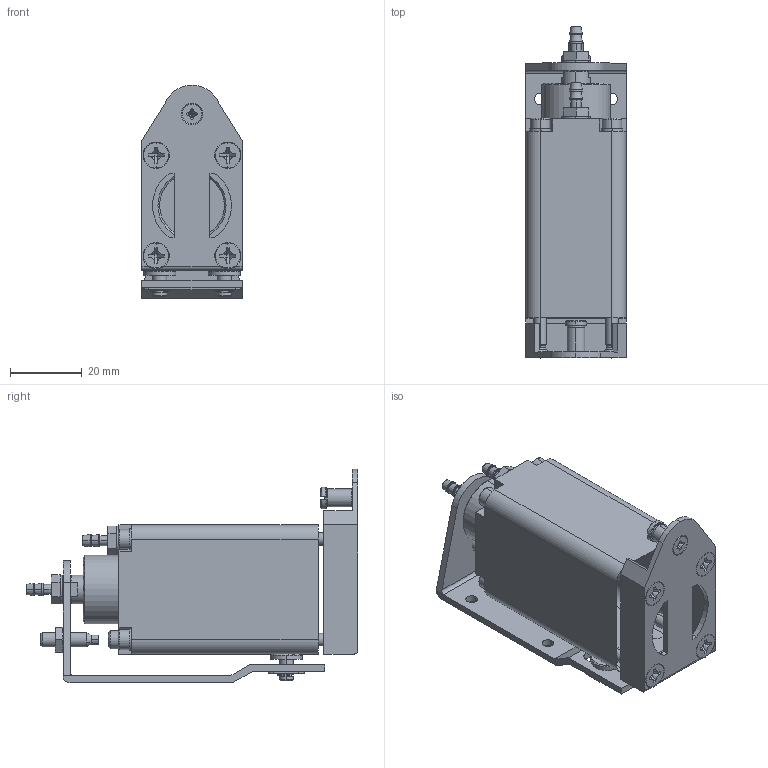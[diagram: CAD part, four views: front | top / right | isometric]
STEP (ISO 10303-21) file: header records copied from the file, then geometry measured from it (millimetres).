
FILE_DESCRIPTION (( 'STEP AP214' ), '1' );
FILE_NAME ('GT-NY10.STEP', '2019-11-13T06:09:54', ( '微软用户' ), ( '微软中国' ), 'SwSTEP 2.0', 'SolidWorks 2016', '' );
FILE_SCHEMA (( 'AUTOMOTIVE_DESIGN' ));
Length unit declared in the file: millimetre
Products named in the file (1): GT-NY10
Bounding box: 28 x 92.5 x 59.5 mm (x, y, z)
Surface area: 25145.4 mm2 (no closed solid volume)
Topology: 0 solids, 110 shells, 829 faces, 2259 edges, 1592 vertices
Faces by surface type: plane 385, cylinder 282, bspline 98, cone 48, torus 16
Entity records: 38008 total; most frequent: CARTESIAN_POINT 13199, ORIENTED_EDGE 4052, DIRECTION 3937, EDGE_CURVE 2249, VERTEX_POINT 1592, AXIS2_PLACEMENT_3D 1494, VECTOR 949, LINE 949
